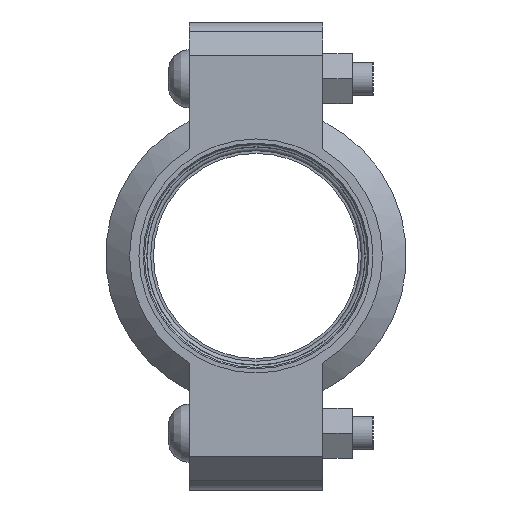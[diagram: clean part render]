
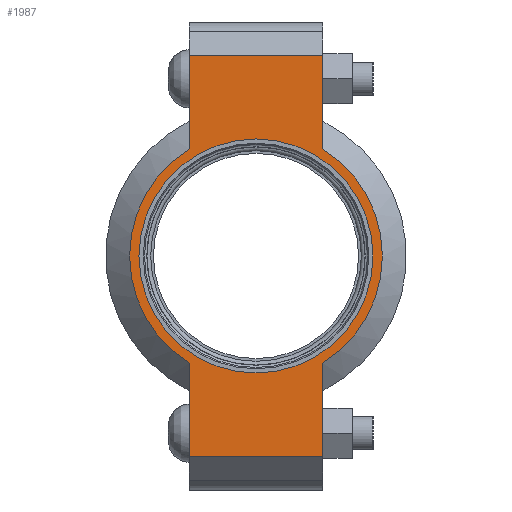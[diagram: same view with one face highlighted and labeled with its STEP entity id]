
A CAD part, left-side view. The second image highlights one B-rep face of the part: STEP entity #1987.
In plain terms, the highlighted planar face has unit normal (-1, 0, 0) as drawn and (0, 0, 1) by its records, which use the part's own axes.
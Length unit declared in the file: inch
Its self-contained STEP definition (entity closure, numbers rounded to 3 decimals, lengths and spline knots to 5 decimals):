
#176=LINE('',#3521,#273);
#184=LINE('',#3557,#281);
#191=LINE('',#3578,#288);
#200=LINE('',#3610,#297);
#201=LINE('',#3614,#298);
#202=LINE('',#3616,#299);
#273=VECTOR('',#2865,0.3937);
#281=VECTOR('',#2881,0.3937);
#288=VECTOR('',#2900,0.3937);
#297=VECTOR('',#2925,0.3937);
#298=VECTOR('',#2930,0.3937);
#299=VECTOR('',#2931,0.3937);
#355=FACE_BOUND('',#605,.T.);
#399=PLANE('',#2326);
#487=FACE_OUTER_BOUND('',#604,.T.);
#604=EDGE_LOOP('',(#1708,#1709,#1710,#1711,#1712,#1713,#1714,#1715));
#605=EDGE_LOOP('',(#1716));
#777=CIRCLE('',#2327,1.89);
#778=CIRCLE('',#2328,1.89);
#779=CIRCLE('',#2329,1.75);
#941=VERTEX_POINT('',#3518);
#942=VERTEX_POINT('',#3520);
#953=VERTEX_POINT('',#3552);
#954=VERTEX_POINT('',#3556);
#961=VERTEX_POINT('',#3575);
#962=VERTEX_POINT('',#3577);
#972=VERTEX_POINT('',#3613);
#973=VERTEX_POINT('',#3615);
#974=VERTEX_POINT('',#3618);
#1186=EDGE_CURVE('',#942,#941,#176,.T.);
#1200=EDGE_CURVE('',#954,#953,#184,.T.);
#1210=EDGE_CURVE('',#962,#961,#191,.T.);
#1225=EDGE_CURVE('',#954,#941,#200,.T.);
#1226=EDGE_CURVE('',#953,#962,#777,.T.);
#1227=EDGE_CURVE('',#972,#961,#201,.T.);
#1228=EDGE_CURVE('',#972,#973,#202,.T.);
#1229=EDGE_CURVE('',#973,#942,#778,.T.);
#1230=EDGE_CURVE('',#974,#974,#779,.T.);
#1708=ORIENTED_EDGE('',*,*,#1225,.F.);
#1709=ORIENTED_EDGE('',*,*,#1200,.T.);
#1710=ORIENTED_EDGE('',*,*,#1226,.T.);
#1711=ORIENTED_EDGE('',*,*,#1210,.T.);
#1712=ORIENTED_EDGE('',*,*,#1227,.F.);
#1713=ORIENTED_EDGE('',*,*,#1228,.T.);
#1714=ORIENTED_EDGE('',*,*,#1229,.T.);
#1715=ORIENTED_EDGE('',*,*,#1186,.T.);
#1716=ORIENTED_EDGE('',*,*,#1230,.T.);
#1987=ADVANCED_FACE('',(#487,#355),#399,.T.);
#2326=AXIS2_PLACEMENT_3D('',#3611,#2926,#2927);
#2327=AXIS2_PLACEMENT_3D('',#3612,#2928,#2929);
#2328=AXIS2_PLACEMENT_3D('',#3617,#2932,#2933);
#2329=AXIS2_PLACEMENT_3D('',#3619,#2934,#2935);
#2865=DIRECTION('',(1.,0.,0.));
#2881=DIRECTION('',(-1.,0.,0.));
#2900=DIRECTION('',(-1.,0.,0.));
#2925=DIRECTION('',(0.,-1.,0.));
#2926=DIRECTION('center_axis',(0.,0.,1.));
#2927=DIRECTION('ref_axis',(-1.,0.,0.));
#2928=DIRECTION('center_axis',(0.,0.,1.));
#2929=DIRECTION('ref_axis',(1.,0.,0.));
#2930=DIRECTION('',(0.,1.,0.));
#2931=DIRECTION('',(1.,0.,0.));
#2932=DIRECTION('center_axis',(0.,0.,1.));
#2933=DIRECTION('ref_axis',(1.,0.,0.));
#2934=DIRECTION('center_axis',(0.,0.,-1.));
#2935=DIRECTION('ref_axis',(1.,0.,0.));
#3518=CARTESIAN_POINT('',(3.,-1.,0.94));
#3520=CARTESIAN_POINT('',(1.60378,-1.,0.94));
#3521=CARTESIAN_POINT('',(3.5,-1.,0.94));
#3552=CARTESIAN_POINT('',(1.60378,1.,0.94));
#3556=CARTESIAN_POINT('',(3.,1.,0.94));
#3557=CARTESIAN_POINT('',(-3.5,1.,0.94));
#3575=CARTESIAN_POINT('',(-3.,1.,0.94));
#3577=CARTESIAN_POINT('',(-1.60378,1.,0.94));
#3578=CARTESIAN_POINT('',(-3.5,1.,0.94));
#3610=CARTESIAN_POINT('',(3.,-0.5,0.94));
#3611=CARTESIAN_POINT('Origin',(0.,0.,
0.94));
#3612=CARTESIAN_POINT('Origin',(0.,0.,0.94));
#3613=CARTESIAN_POINT('',(-3.,-1.,0.94));
#3614=CARTESIAN_POINT('',(-3.,0.5,0.94));
#3615=CARTESIAN_POINT('',(-1.60378,-1.,0.94));
#3616=CARTESIAN_POINT('',(3.5,-1.,0.94));
#3617=CARTESIAN_POINT('Origin',(0.,0.,0.94));
#3618=CARTESIAN_POINT('',(-1.75,0.,0.94));
#3619=CARTESIAN_POINT('Origin',(0.,0.,0.94));
